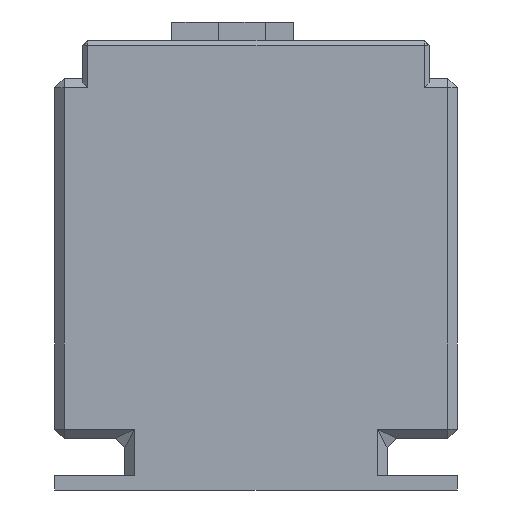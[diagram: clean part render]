
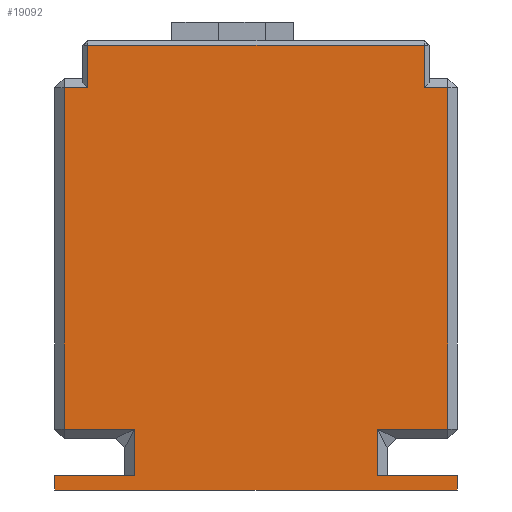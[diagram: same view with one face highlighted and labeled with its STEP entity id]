
A CAD part, left-side view. The second image highlights one B-rep face of the part: STEP entity #19092.
In plain terms, the highlighted planar face has unit normal (-1, 0, 0).
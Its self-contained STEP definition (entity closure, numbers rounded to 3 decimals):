
#2001=FACE_OUTER_BOUND('',#3133,.T.);
#3133=EDGE_LOOP('',(#15649,#15650,#15651,#15652,#15653,#15654,#15655,#15656,
#15657,#15658,#15659,#15660,#15661,#15662,#15663,#15664));
#4834=LINE('',#32054,#6732);
#4836=LINE('',#32057,#6734);
#4840=LINE('',#32067,#6738);
#4870=LINE('',#32130,#6768);
#4872=LINE('',#32133,#6770);
#4878=LINE('',#32142,#6776);
#4887=LINE('',#32158,#6785);
#4922=LINE('',#32231,#6820);
#4925=LINE('',#32236,#6823);
#4929=LINE('',#32242,#6827);
#4933=LINE('',#32250,#6831);
#4937=LINE('',#32258,#6835);
#4938=LINE('',#32260,#6836);
#4939=LINE('',#32262,#6837);
#4940=LINE('',#32264,#6838);
#4941=LINE('',#32265,#6839);
#6732=VECTOR('',#22785,10.);
#6734=VECTOR('',#22789,10.);
#6738=VECTOR('',#22799,10.);
#6768=VECTOR('',#22851,10.);
#6770=VECTOR('',#22855,10.);
#6776=VECTOR('',#22867,10.);
#6785=VECTOR('',#22882,10.);
#6820=VECTOR('',#22947,10.);
#6823=VECTOR('',#22954,10.);
#6827=VECTOR('',#22960,10.);
#6831=VECTOR('',#22968,10.);
#6835=VECTOR('',#22976,10.);
#6836=VECTOR('',#22977,10.);
#6837=VECTOR('',#22978,10.);
#6838=VECTOR('',#22979,10.);
#6839=VECTOR('',#22980,10.);
#8544=VERTEX_POINT('',#32038);
#8546=VERTEX_POINT('',#32047);
#8548=VERTEX_POINT('',#32052);
#8550=VERTEX_POINT('',#32063);
#8557=VERTEX_POINT('',#32080);
#8563=VERTEX_POINT('',#32094);
#8568=VERTEX_POINT('',#32106);
#8576=VERTEX_POINT('',#32154);
#8592=VERTEX_POINT('',#32206);
#8596=VERTEX_POINT('',#32214);
#8598=VERTEX_POINT('',#32223);
#8603=VERTEX_POINT('',#32248);
#8605=VERTEX_POINT('',#32257);
#8606=VERTEX_POINT('',#32259);
#8607=VERTEX_POINT('',#32261);
#8608=VERTEX_POINT('',#32263);
#10969=EDGE_CURVE('',#8548,#8546,#4834,.T.);
#10971=EDGE_CURVE('',#8546,#8544,#4836,.T.);
#10976=EDGE_CURVE('',#8544,#8550,#4840,.T.);
#11006=EDGE_CURVE('',#8550,#8568,#4870,.T.);
#11008=EDGE_CURVE('',#8568,#8563,#4872,.T.);
#11014=EDGE_CURVE('',#8563,#8557,#4878,.T.);
#11023=EDGE_CURVE('',#8557,#8576,#4887,.T.);
#11058=EDGE_CURVE('',#8598,#8596,#4922,.T.);
#11061=EDGE_CURVE('',#8592,#8598,#4925,.T.);
#11065=EDGE_CURVE('',#8596,#8548,#4929,.T.);
#11069=EDGE_CURVE('',#8603,#8592,#4933,.T.);
#11073=EDGE_CURVE('',#8603,#8605,#4937,.T.);
#11074=EDGE_CURVE('',#8606,#8605,#4938,.T.);
#11075=EDGE_CURVE('',#8606,#8607,#4939,.T.);
#11076=EDGE_CURVE('',#8607,#8608,#4940,.T.);
#11077=EDGE_CURVE('',#8608,#8576,#4941,.T.);
#15649=ORIENTED_EDGE('',*,*,#11065,.F.);
#15650=ORIENTED_EDGE('',*,*,#11058,.F.);
#15651=ORIENTED_EDGE('',*,*,#11061,.F.);
#15652=ORIENTED_EDGE('',*,*,#11069,.F.);
#15653=ORIENTED_EDGE('',*,*,#11073,.T.);
#15654=ORIENTED_EDGE('',*,*,#11074,.F.);
#15655=ORIENTED_EDGE('',*,*,#11075,.T.);
#15656=ORIENTED_EDGE('',*,*,#11076,.T.);
#15657=ORIENTED_EDGE('',*,*,#11077,.T.);
#15658=ORIENTED_EDGE('',*,*,#11023,.F.);
#15659=ORIENTED_EDGE('',*,*,#11014,.F.);
#15660=ORIENTED_EDGE('',*,*,#11008,.F.);
#15661=ORIENTED_EDGE('',*,*,#11006,.F.);
#15662=ORIENTED_EDGE('',*,*,#10976,.F.);
#15663=ORIENTED_EDGE('',*,*,#10971,.F.);
#15664=ORIENTED_EDGE('',*,*,#10969,.F.);
#18017=PLANE('',#19994);
#19092=ADVANCED_FACE('',(#2001),#18017,.T.);
#19994=AXIS2_PLACEMENT_3D('',#32256,#22974,#22975);
#22785=DIRECTION('',(0.,0.,1.));
#22789=DIRECTION('',(0.,-1.,0.));
#22799=DIRECTION('',(0.,0.,-1.));
#22851=DIRECTION('',(0.,-1.,0.));
#22855=DIRECTION('',(0.,0.,-1.));
#22867=DIRECTION('',(0.,1.,0.));
#22882=DIRECTION('',(0.,0.,-1.));
#22947=DIRECTION('',(0.,0.,1.));
#22954=DIRECTION('',(0.,1.,0.));
#22960=DIRECTION('',(0.,-1.,0.));
#22968=DIRECTION('',(0.,0.,1.));
#22974=DIRECTION('center_axis',(-1.,0.,0.));
#22975=DIRECTION('ref_axis',(0.,-1.,0.));
#22976=DIRECTION('',(0.,1.,0.));
#22977=DIRECTION('',(0.,0.,1.));
#22978=DIRECTION('',(0.,-1.,0.));
#22979=DIRECTION('',(0.,0.,1.));
#22980=DIRECTION('',(0.,1.,0.));
#32038=CARTESIAN_POINT('',(0.,7.,95.));
#32047=CARTESIAN_POINT('',(0.,79.,95.));
#32052=CARTESIAN_POINT('',(0.,79.,86.));
#32054=CARTESIAN_POINT('',(0.,79.,50.));
#32057=CARTESIAN_POINT('',(0.,64.5,95.));
#32063=CARTESIAN_POINT('',(0.,7.,86.));
#32067=CARTESIAN_POINT('',(0.,7.,50.));
#32080=CARTESIAN_POINT('',(0.,17.,13.));
#32094=CARTESIAN_POINT('',(0.,2.,13.));
#32106=CARTESIAN_POINT('',(0.,2.,86.));
#32130=CARTESIAN_POINT('',(0.,44.756,86.));
#32133=CARTESIAN_POINT('',(0.,2.,0.));
#32142=CARTESIAN_POINT('',(0.,43.,13.));
#32154=CARTESIAN_POINT('',(0.,17.,3.));
#32158=CARTESIAN_POINT('',(0.,17.,3.5));
#32206=CARTESIAN_POINT('',(0.,69.,13.));
#32214=CARTESIAN_POINT('',(0.,84.,86.));
#32223=CARTESIAN_POINT('',(0.,84.,13.));
#32231=CARTESIAN_POINT('',(0.,84.,0.));
#32236=CARTESIAN_POINT('',(0.,86.,13.));
#32242=CARTESIAN_POINT('',(0.,84.244,86.));
#32248=CARTESIAN_POINT('',(0.,69.,3.));
#32250=CARTESIAN_POINT('',(0.,69.,3.5));
#32256=CARTESIAN_POINT('Origin',(0.,86.,0.));
#32257=CARTESIAN_POINT('',(0.,86.,3.));
#32258=CARTESIAN_POINT('',(0.,86.,3.));
#32259=CARTESIAN_POINT('',(0.,86.,0.));
#32260=CARTESIAN_POINT('',(0.,86.,0.));
#32261=CARTESIAN_POINT('',(0.,0.,0.));
#32262=CARTESIAN_POINT('',(0.,86.,0.));
#32263=CARTESIAN_POINT('',(0.,0.,3.));
#32264=CARTESIAN_POINT('',(0.,0.,0.));
#32265=CARTESIAN_POINT('',(0.,43.,3.));
